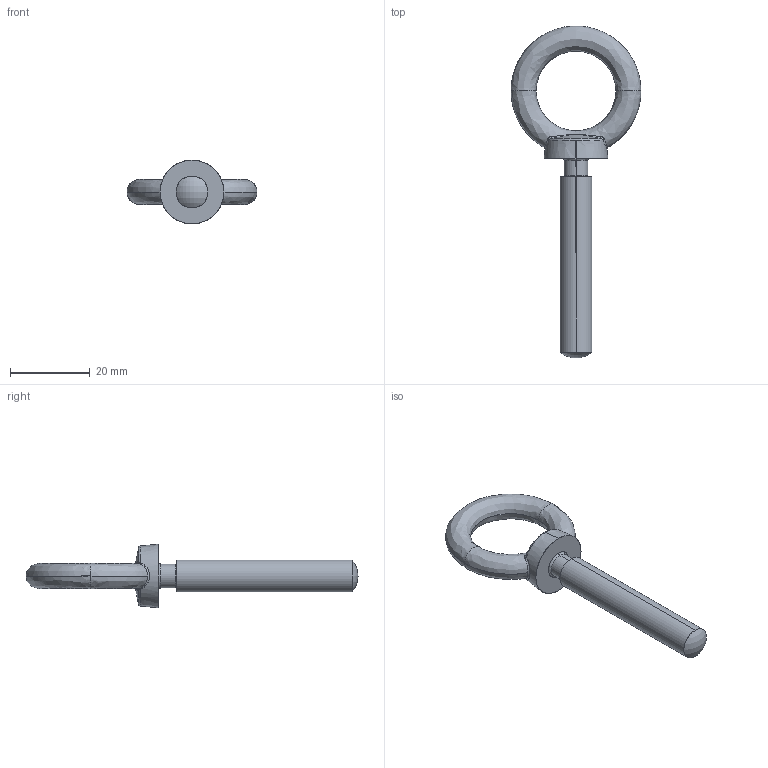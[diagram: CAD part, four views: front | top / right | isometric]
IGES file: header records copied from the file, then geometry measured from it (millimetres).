
Start section: SolidWorks IGES FILE using analytic representation for surfaces
Global section: file name: \\Ls-wvld1d\share\シブタニ\3D設計\ネジ・アイボルト\EB-901(S)-0850\EB-901(S)-0850.IGS,41HSolidWorks; native system: 2003 by SolidWorks Corporation; preprocessor: Version 5.3; author: user; date: 130703.173343; units: millimetre
Bounding box: 32.6 x 83.28 x 16 mm (x, y, z)
Surface area: 3201.6 mm2 (no closed solid volume)
Topology: 0 solids, 0 shells, 31 faces, 433 edges, 433 vertices
Faces by surface type: bspline 21, revolution 10
